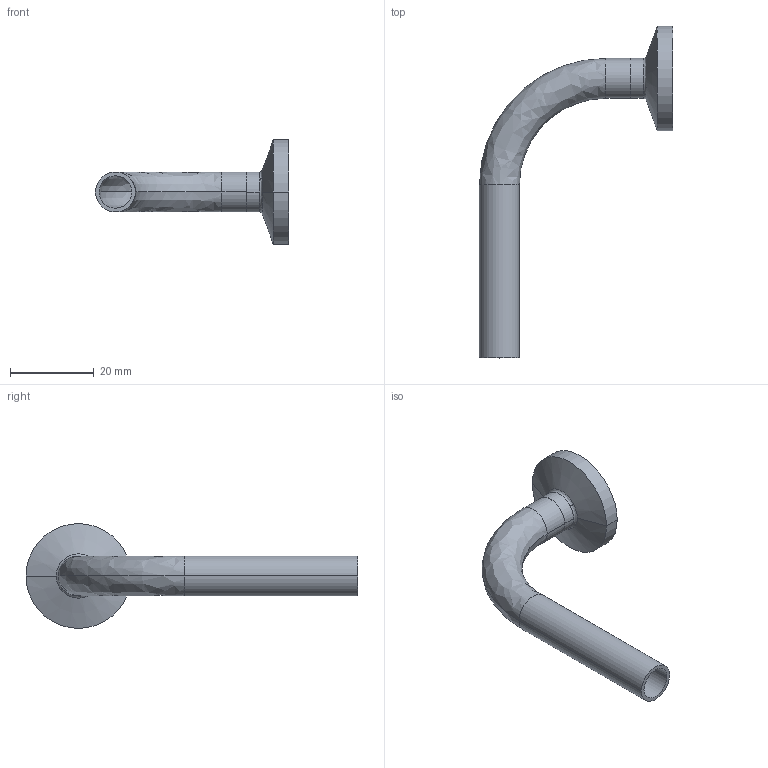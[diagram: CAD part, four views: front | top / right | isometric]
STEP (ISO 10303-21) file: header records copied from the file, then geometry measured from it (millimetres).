
FILE_DESCRIPTION (( 'STEP AP214' ), '1' );
FILE_NAME ('TE2C6L.375-...STEP', '2016-05-22T09:29:39', ( 'eran' ), ( '' ), 'SwSTEP 2.0', 'SolidWorks 2016', '' );
FILE_SCHEMA (( 'AUTOMOTIVE_DESIGN' ));
Length unit declared in the file: millimetre
Products named in the file (1): TE2C6L.375-..
Bounding box: 46.06 x 79.2 x 24.99 mm (x, y, z)
Volume: 3985 mm3; surface area: 6445.8 mm2
Topology: 2 solids, 2 shells, 37 faces, 86 edges, 54 vertices
Faces by surface type: cylinder 16, bspline 12, plane 5, cone 4
Entity records: 1265 total; most frequent: CARTESIAN_POINT 370, DIRECTION 196, ORIENTED_EDGE 172, AXIS2_PLACEMENT_3D 88, EDGE_CURVE 86, CIRCLE 62, VERTEX_POINT 54, EDGE_LOOP 42
